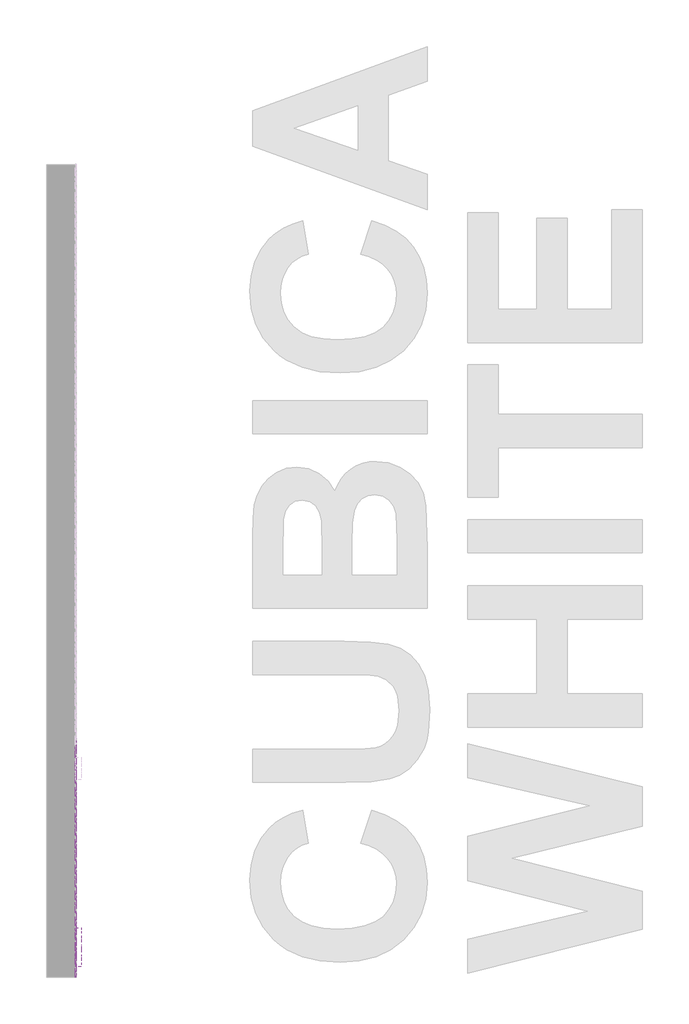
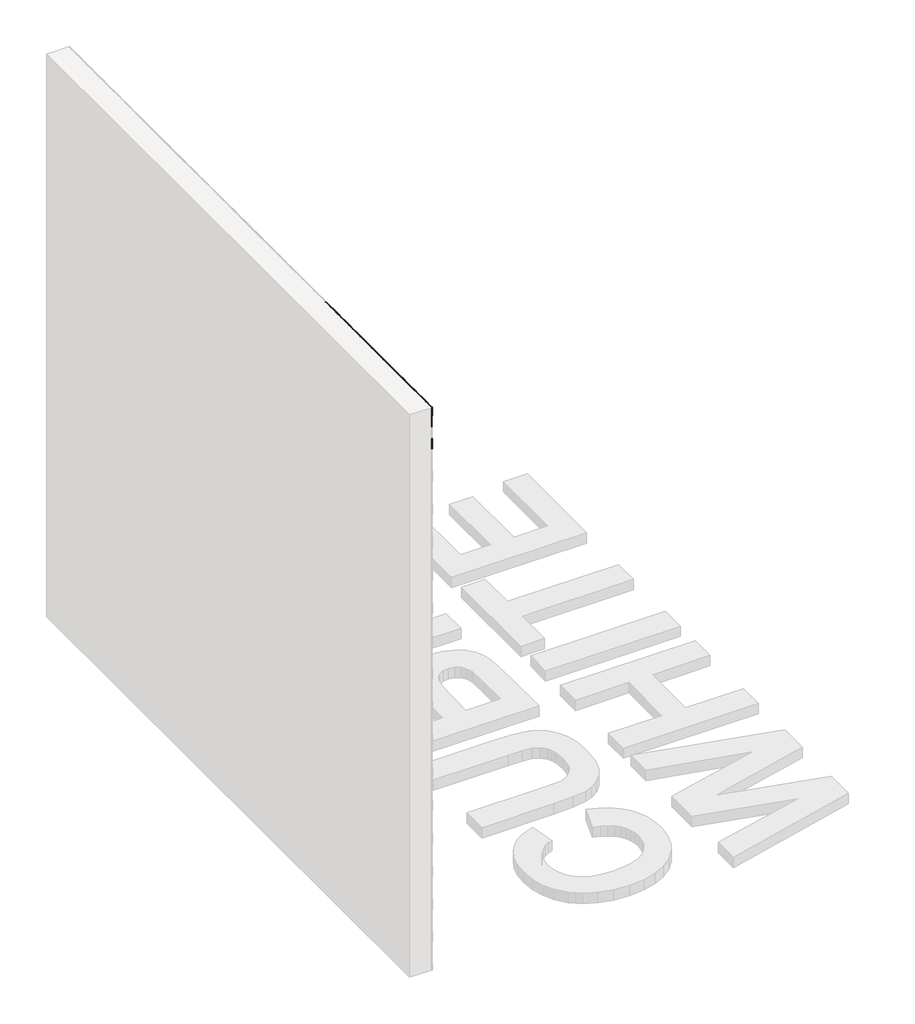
# One storey, part 104 of 121: 131 proxies.
"""IFC4 building model written with IfcOpenShell, lengths in millimetres."""

from ifc_helpers import new_model, si_unit, frame, origin, place, context, project, spatial, polyline, outline, extrude, transform, mapped, element, save
from components import generic_models_b2b2c5c1, generic_models_9bf73f6f, generic_models_5d175859, generic_models_45888c4d, generic_models_95f85f1d, generic_models_65d4feed, generic_models_3c364290, generic_models_eac52c18, generic_models_b652511d

model = new_model("IFC4")

# Units and contexts
model_context = context("Model", 3, world=origin())
ifc_project = project(units=[si_unit("LENGTHUNIT", "METRE", prefix="MILLI")], contexts=[model_context])

# Site, building, storey
site = spatial("IfcSite", under=ifc_project)
building = spatial("IfcBuilding", under=site)
storey = spatial("IfcBuildingStorey", under=building, Name="PORTOBELLO - SHOWROOM", Elevation=0.0)

# Proxies
placement = place(None, origin())
generic_models_shape = generic_models_b2b2c5c1(model_context)
element("IfcBuildingElementProxy", 1, Name="PBSHOP - CUBICA WHITE 4,8X8,3 : CUBICA WHITE - POSIÇÃO 01", ObjectType="PBSHOP - CUBICA WHITE 4,8X8,3 : CUBICA WHITE - POSIÇÃO 01", at=placement, inside=storey, context=model_context, shape_type="MappedRepresentation", body=[
    mapped(generic_models_shape, transform((150369.5341846, 20014.1011688, 39.4221668), x_axis=(0.0, 1.0, 0.0), y_axis=(0.0, 0.0, 1.0), z_axis=(1.0, 0.0, 0.0))),
])
element("IfcBuildingElementProxy", 2, Name="PBSHOP - CUBICA WHITE 4,8X8,3 : CUBICA WHITE - POSIÇÃO 01", ObjectType="PBSHOP - CUBICA WHITE 4,8X8,3 : CUBICA WHITE - POSIÇÃO 01", at=placement, inside=storey, context=model_context, shape_type="MappedRepresentation", body=[
    mapped(generic_models_shape, transform((150369.5341846, 20104.940438, 39.4221668), x_axis=(0.0, 1.0, 0.0), y_axis=(0.0, 0.0, 1.0), z_axis=(1.0, 0.0, 0.0))),
])
element("IfcBuildingElementProxy", 3, Name="PBSHOP - CUBICA WHITE 4,8X8,3 : CUBICA WHITE - POSIÇÃO 01", ObjectType="PBSHOP - CUBICA WHITE 4,8X8,3 : CUBICA WHITE - POSIÇÃO 01", at=placement, inside=storey, context=model_context, shape_type="MappedRepresentation", body=[
    mapped(generic_models_shape, transform((150369.5341846, 20195.7797073, 39.4221668), x_axis=(0.0, 1.0, 0.0), y_axis=(0.0, 0.0, 1.0), z_axis=(1.0, 0.0, 0.0))),
])
element("IfcBuildingElementProxy", 4, Name="PBSHOP - CUBICA WHITE 4,8X8,3 : CUBICA WHITE - POSIÇÃO 01", ObjectType="PBSHOP - CUBICA WHITE 4,8X8,3 : CUBICA WHITE - POSIÇÃO 01", at=placement, inside=storey, context=model_context, shape_type="MappedRepresentation", body=[
    mapped(generic_models_shape, transform((150369.5341846, 20286.6189765, 39.4221668), x_axis=(0.0, 1.0, 0.0), y_axis=(0.0, 0.0, 1.0), z_axis=(1.0, 0.0, 0.0))),
])
element("IfcBuildingElementProxy", 5, Name="PBSHOP - CUBICA WHITE 4,8X8,3 : CUBICA WHITE - POSIÇÃO 01", ObjectType="PBSHOP - CUBICA WHITE 4,8X8,3 : CUBICA WHITE - POSIÇÃO 01", at=placement, inside=storey, context=model_context, shape_type="MappedRepresentation", body=[
    mapped(generic_models_shape, transform((150369.5341846, 20377.4582457, 39.4221668), x_axis=(0.0, 1.0, 0.0), y_axis=(0.0, 0.0, 1.0), z_axis=(1.0, 0.0, 0.0))),
])
element("IfcBuildingElementProxy", 6, Name="PBSHOP - CUBICA WHITE 4,8X8,3 : CUBICA WHITE - POSIÇÃO 01", ObjectType="PBSHOP - CUBICA WHITE 4,8X8,3 : CUBICA WHITE - POSIÇÃO 01", at=placement, inside=storey, context=model_context, shape_type="MappedRepresentation", body=[
    mapped(generic_models_shape, transform((150369.5341846, 20468.297515, 39.4221668), x_axis=(0.0, 1.0, 0.0), y_axis=(0.0, 0.0, 1.0), z_axis=(1.0, 0.0, 0.0))),
])
element("IfcBuildingElementProxy", 7, Name="PBSHOP - CUBICA WHITE 4,8X8,3 : CUBICA WHITE - POSIÇÃO 01", ObjectType="PBSHOP - CUBICA WHITE 4,8X8,3 : CUBICA WHITE - POSIÇÃO 01", at=placement, inside=storey, context=model_context, shape_type="MappedRepresentation", body=[
    mapped(generic_models_shape, transform((150369.5341846, 20559.1367842, 39.4221668), x_axis=(0.0, 1.0, 0.0), y_axis=(0.0, 0.0, 1.0), z_axis=(1.0, 0.0, 0.0))),
])
element("IfcBuildingElementProxy", 8, Name="PBSHOP - CUBICA WHITE 4,8X8,3 : CUBICA WHITE - POSIÇÃO 01", ObjectType="PBSHOP - CUBICA WHITE 4,8X8,3 : CUBICA WHITE - POSIÇÃO 01", at=placement, inside=storey, context=model_context, shape_type="MappedRepresentation", body=[
    mapped(generic_models_shape, transform((150369.5341846, 20649.9760535, 39.4221668), x_axis=(0.0, 1.0, 0.0), y_axis=(0.0, 0.0, 1.0), z_axis=(1.0, 0.0, 0.0))),
])
element("IfcBuildingElementProxy", 9, Name="PBSHOP - CUBICA WHITE 4,8X8,3 : CUBICA WHITE - POSIÇÃO 01", ObjectType="PBSHOP - CUBICA WHITE 4,8X8,3 : CUBICA WHITE - POSIÇÃO 01", at=placement, inside=storey, context=model_context, shape_type="MappedRepresentation", body=[
    mapped(generic_models_shape, transform((150369.5341846, 20740.8153227, 39.4221668), x_axis=(0.0, 1.0, 0.0), y_axis=(0.0, 0.0, 1.0), z_axis=(1.0, 0.0, 0.0))),
])
element("IfcBuildingElementProxy", 10, Name="PBSHOP - CUBICA WHITE 4,8X8,3 : CUBICA WHITE - POSIÇÃO 01", ObjectType="PBSHOP - CUBICA WHITE 4,8X8,3 : CUBICA WHITE - POSIÇÃO 01", at=placement, inside=storey, context=model_context, shape_type="MappedRepresentation", body=[
    mapped(generic_models_shape, transform((150369.5341846, 20831.654592, 39.4221668), x_axis=(0.0, 1.0, 0.0), y_axis=(0.0, 0.0, 1.0), z_axis=(1.0, 0.0, 0.0))),
])
element("IfcBuildingElementProxy", 11, Name="PBSHOP - CUBICA WHITE 4,8X8,3 : CUBICA WHITE - POSIÇÃO 01", ObjectType="PBSHOP - CUBICA WHITE 4,8X8,3 : CUBICA WHITE - POSIÇÃO 01", at=placement, inside=storey, context=model_context, shape_type="MappedRepresentation", body=[
    mapped(generic_models_shape, transform((150369.5341846, 20922.4938612, 39.4221668), x_axis=(0.0, 1.0, 0.0), y_axis=(0.0, 0.0, 1.0), z_axis=(1.0, 0.0, 0.0))),
])
element("IfcBuildingElementProxy", 12, Name="PBSHOP - CUBICA WHITE 4,8X8,3 : CUBICA WHITE - POSIÇÃO 01", ObjectType="PBSHOP - CUBICA WHITE 4,8X8,3 : CUBICA WHITE - POSIÇÃO 01", at=placement, inside=storey, context=model_context, shape_type="MappedRepresentation", body=[
    mapped(generic_models_shape, transform((150369.5341846, 20059.5208034, 118.3568052), x_axis=(0.0, 1.0, 0.0), y_axis=(0.0, 0.0, 1.0), z_axis=(1.0, 0.0, 0.0))),
])
element("IfcBuildingElementProxy", 13, Name="PBSHOP - CUBICA WHITE 4,8X8,3 : CUBICA WHITE - POSIÇÃO 01", ObjectType="PBSHOP - CUBICA WHITE 4,8X8,3 : CUBICA WHITE - POSIÇÃO 01", at=placement, inside=storey, context=model_context, shape_type="MappedRepresentation", body=[
    mapped(generic_models_shape, transform((150369.5341846, 20150.3600726, 118.3568052), x_axis=(0.0, 1.0, 0.0), y_axis=(0.0, 0.0, 1.0), z_axis=(1.0, 0.0, 0.0))),
])
element("IfcBuildingElementProxy", 14, Name="PBSHOP - CUBICA WHITE 4,8X8,3 : CUBICA WHITE - POSIÇÃO 01", ObjectType="PBSHOP - CUBICA WHITE 4,8X8,3 : CUBICA WHITE - POSIÇÃO 01", at=placement, inside=storey, context=model_context, shape_type="MappedRepresentation", body=[
    mapped(generic_models_shape, transform((150369.5341846, 20241.1993419, 118.3568052), x_axis=(0.0, 1.0, 0.0), y_axis=(0.0, 0.0, 1.0), z_axis=(1.0, 0.0, 0.0))),
])
element("IfcBuildingElementProxy", 15, Name="PBSHOP - CUBICA WHITE 4,8X8,3 : CUBICA WHITE - POSIÇÃO 01", ObjectType="PBSHOP - CUBICA WHITE 4,8X8,3 : CUBICA WHITE - POSIÇÃO 01", at=placement, inside=storey, context=model_context, shape_type="MappedRepresentation", body=[
    mapped(generic_models_shape, transform((150369.5341846, 20332.0386111, 118.3568052), x_axis=(0.0, 1.0, 0.0), y_axis=(0.0, 0.0, 1.0), z_axis=(1.0, 0.0, 0.0))),
])
element("IfcBuildingElementProxy", 16, Name="PBSHOP - CUBICA WHITE 4,8X8,3 : CUBICA WHITE - POSIÇÃO 01", ObjectType="PBSHOP - CUBICA WHITE 4,8X8,3 : CUBICA WHITE - POSIÇÃO 01", at=placement, inside=storey, context=model_context, shape_type="MappedRepresentation", body=[
    mapped(generic_models_shape, transform((150369.5341846, 20422.8778804, 118.3568052), x_axis=(0.0, 1.0, 0.0), y_axis=(0.0, 0.0, 1.0), z_axis=(1.0, 0.0, 0.0))),
])
element("IfcBuildingElementProxy", 17, Name="PBSHOP - CUBICA WHITE 4,8X8,3 : CUBICA WHITE - POSIÇÃO 01", ObjectType="PBSHOP - CUBICA WHITE 4,8X8,3 : CUBICA WHITE - POSIÇÃO 01", at=placement, inside=storey, context=model_context, shape_type="MappedRepresentation", body=[
    mapped(generic_models_shape, transform((150369.5341846, 20513.7171496, 118.3568052), x_axis=(0.0, 1.0, 0.0), y_axis=(0.0, 0.0, 1.0), z_axis=(1.0, 0.0, 0.0))),
])
element("IfcBuildingElementProxy", 18, Name="PBSHOP - CUBICA WHITE 4,8X8,3 : CUBICA WHITE - POSIÇÃO 01", ObjectType="PBSHOP - CUBICA WHITE 4,8X8,3 : CUBICA WHITE - POSIÇÃO 01", at=placement, inside=storey, context=model_context, shape_type="MappedRepresentation", body=[
    mapped(generic_models_shape, transform((150369.5341846, 20604.5564189, 118.3568052), x_axis=(0.0, 1.0, 0.0), y_axis=(0.0, 0.0, 1.0), z_axis=(1.0, 0.0, 0.0))),
])
element("IfcBuildingElementProxy", 19, Name="PBSHOP - CUBICA WHITE 4,8X8,3 : CUBICA WHITE - POSIÇÃO 01", ObjectType="PBSHOP - CUBICA WHITE 4,8X8,3 : CUBICA WHITE - POSIÇÃO 01", at=placement, inside=storey, context=model_context, shape_type="MappedRepresentation", body=[
    mapped(generic_models_shape, transform((150369.5341846, 20695.3956881, 118.3568052), x_axis=(0.0, 1.0, 0.0), y_axis=(0.0, 0.0, 1.0), z_axis=(1.0, 0.0, 0.0))),
])
element("IfcBuildingElementProxy", 20, Name="PBSHOP - CUBICA WHITE 4,8X8,3 : CUBICA WHITE - POSIÇÃO 01", ObjectType="PBSHOP - CUBICA WHITE 4,8X8,3 : CUBICA WHITE - POSIÇÃO 01", at=placement, inside=storey, context=model_context, shape_type="MappedRepresentation", body=[
    mapped(generic_models_shape, transform((150369.5341846, 20786.2349573, 118.3568052), x_axis=(0.0, 1.0, 0.0), y_axis=(0.0, 0.0, 1.0), z_axis=(1.0, 0.0, 0.0))),
])
element("IfcBuildingElementProxy", 21, Name="PBSHOP - CUBICA WHITE 4,8X8,3 : CUBICA WHITE - POSIÇÃO 01", ObjectType="PBSHOP - CUBICA WHITE 4,8X8,3 : CUBICA WHITE - POSIÇÃO 01", at=placement, inside=storey, context=model_context, shape_type="MappedRepresentation", body=[
    mapped(generic_models_shape, transform((150369.5341846, 20877.0742266, 118.3568052), x_axis=(0.0, 1.0, 0.0), y_axis=(0.0, 0.0, 1.0), z_axis=(1.0, 0.0, 0.0))),
])
element("IfcBuildingElementProxy", 22, Name="PBSHOP - CUBICA WHITE 4,8X8,3 : CUBICA WHITE - POSIÇÃO 01", ObjectType="PBSHOP - CUBICA WHITE 4,8X8,3 : CUBICA WHITE - POSIÇÃO 01", at=placement, inside=storey, context=model_context, shape_type="MappedRepresentation", body=[
    mapped(generic_models_shape, transform((150369.5341846, 20967.9134958, 118.3568052), x_axis=(0.0, 1.0, 0.0), y_axis=(0.0, 0.0, 1.0), z_axis=(1.0, 0.0, 0.0))),
])
element("IfcBuildingElementProxy", 23, Name="PBSHOP - CUBICA WHITE 4,8X8,3 : CUBICA WHITE - POSIÇÃO 01", ObjectType="PBSHOP - CUBICA WHITE 4,8X8,3 : CUBICA WHITE - POSIÇÃO 01", at=placement, inside=storey, context=model_context, shape_type="MappedRepresentation", body=[
    mapped(generic_models_shape, transform((150369.5341846, 19650.7440918, 2565.3305948), x_axis=(0.0, 1.0, 0.0), y_axis=(0.0, 0.0, 1.0), z_axis=(1.0, 0.0, 0.0))),
])
element("IfcBuildingElementProxy", 24, Name="PBSHOP - CUBICA WHITE 4,8X8,3 : CUBICA WHITE - POSIÇÃO 01", ObjectType="PBSHOP - CUBICA WHITE 4,8X8,3 : CUBICA WHITE - POSIÇÃO 01", at=placement, inside=storey, context=model_context, shape_type="MappedRepresentation", body=[
    mapped(generic_models_shape, transform((150369.5341846, 19741.583361, 2565.3305948), x_axis=(0.0, 1.0, 0.0), y_axis=(0.0, 0.0, 1.0), z_axis=(1.0, 0.0, 0.0))),
])
element("IfcBuildingElementProxy", 25, Name="PBSHOP - CUBICA WHITE 4,8X8,3 : CUBICA WHITE - POSIÇÃO 01", ObjectType="PBSHOP - CUBICA WHITE 4,8X8,3 : CUBICA WHITE - POSIÇÃO 01", at=placement, inside=storey, context=model_context, shape_type="MappedRepresentation", body=[
    mapped(generic_models_shape, transform((150369.5341846, 19832.4226303, 2565.3305948), x_axis=(0.0, 1.0, 0.0), y_axis=(0.0, 0.0, 1.0), z_axis=(1.0, 0.0, 0.0))),
])
element("IfcBuildingElementProxy", 26, Name="PBSHOP - CUBICA WHITE 4,8X8,3 : CUBICA WHITE - POSIÇÃO 01", ObjectType="PBSHOP - CUBICA WHITE 4,8X8,3 : CUBICA WHITE - POSIÇÃO 01", at=placement, inside=storey, context=model_context, shape_type="MappedRepresentation", body=[
    mapped(generic_models_shape, transform((150369.5341846, 19923.2618995, 2565.3305948), x_axis=(0.0, 1.0, 0.0), y_axis=(0.0, 0.0, 1.0), z_axis=(1.0, 0.0, 0.0))),
])
element("IfcBuildingElementProxy", 27, Name="PBSHOP - CUBICA WHITE 4,8X8,3 : CUBICA WHITE - POSIÇÃO 01", ObjectType="PBSHOP - CUBICA WHITE 4,8X8,3 : CUBICA WHITE - POSIÇÃO 01", at=placement, inside=storey, context=model_context, shape_type="MappedRepresentation", body=[
    mapped(generic_models_shape, transform((150369.5341846, 19241.9673802, 2644.2652332), x_axis=(0.0, 1.0, 0.0), y_axis=(0.0, 0.0, 1.0), z_axis=(1.0, 0.0, 0.0))),
])
element("IfcBuildingElementProxy", 28, Name="PBSHOP - CUBICA WHITE 4,8X8,3 : CUBICA WHITE - POSIÇÃO 01", ObjectType="PBSHOP - CUBICA WHITE 4,8X8,3 : CUBICA WHITE - POSIÇÃO 01", at=placement, inside=storey, context=model_context, shape_type="MappedRepresentation", body=[
    mapped(generic_models_shape, transform((150369.5341846, 19332.8066494, 2644.2652332), x_axis=(0.0, 1.0, 0.0), y_axis=(0.0, 0.0, 1.0), z_axis=(1.0, 0.0, 0.0))),
])
element("IfcBuildingElementProxy", 29, Name="PBSHOP - CUBICA WHITE 4,8X8,3 : CUBICA WHITE - POSIÇÃO 01", ObjectType="PBSHOP - CUBICA WHITE 4,8X8,3 : CUBICA WHITE - POSIÇÃO 01", at=placement, inside=storey, context=model_context, shape_type="MappedRepresentation", body=[
    mapped(generic_models_shape, transform((150369.5341846, 19423.6459187, 2644.2652332), x_axis=(0.0, 1.0, 0.0), y_axis=(0.0, 0.0, 1.0), z_axis=(1.0, 0.0, 0.0))),
])
element("IfcBuildingElementProxy", 30, Name="PBSHOP - CUBICA WHITE 4,8X8,3 : CUBICA WHITE - POSIÇÃO 01", ObjectType="PBSHOP - CUBICA WHITE 4,8X8,3 : CUBICA WHITE - POSIÇÃO 01", at=placement, inside=storey, context=model_context, shape_type="MappedRepresentation", body=[
    mapped(generic_models_shape, transform((150369.5341846, 19514.4851879, 2644.2652332), x_axis=(0.0, 1.0, 0.0), y_axis=(0.0, 0.0, 1.0), z_axis=(1.0, 0.0, 0.0))),
])
element("IfcBuildingElementProxy", 31, Name="PBSHOP - CUBICA WHITE 4,8X8,3 : CUBICA WHITE - POSIÇÃO 01", ObjectType="PBSHOP - CUBICA WHITE 4,8X8,3 : CUBICA WHITE - POSIÇÃO 01", at=placement, inside=storey, context=model_context, shape_type="MappedRepresentation", body=[
    mapped(generic_models_shape, transform((150369.5341846, 19605.3244572, 2644.2652332), x_axis=(0.0, 1.0, 0.0), y_axis=(0.0, 0.0, 1.0), z_axis=(1.0, 0.0, 0.0))),
])
element("IfcBuildingElementProxy", 32, Name="PBSHOP - CUBICA WHITE 4,8X8,3 : CUBICA WHITE - POSIÇÃO 01", ObjectType="PBSHOP - CUBICA WHITE 4,8X8,3 : CUBICA WHITE - POSIÇÃO 01", at=placement, inside=storey, context=model_context, shape_type="MappedRepresentation", body=[
    mapped(generic_models_shape, transform((150369.5341846, 19696.1637264, 2644.2652332), x_axis=(0.0, 1.0, 0.0), y_axis=(0.0, 0.0, 1.0), z_axis=(1.0, 0.0, 0.0))),
])
element("IfcBuildingElementProxy", 33, Name="PBSHOP - CUBICA WHITE 4,8X8,3 : CUBICA WHITE - POSIÇÃO 01", ObjectType="PBSHOP - CUBICA WHITE 4,8X8,3 : CUBICA WHITE - POSIÇÃO 01", at=placement, inside=storey, context=model_context, shape_type="MappedRepresentation", body=[
    mapped(generic_models_shape, transform((150369.5341846, 19787.0029957, 2644.2652332), x_axis=(0.0, 1.0, 0.0), y_axis=(0.0, 0.0, 1.0), z_axis=(1.0, 0.0, 0.0))),
])
element("IfcBuildingElementProxy", 34, Name="PBSHOP - CUBICA WHITE 4,8X8,3 : CUBICA WHITE - POSIÇÃO 01", ObjectType="PBSHOP - CUBICA WHITE 4,8X8,3 : CUBICA WHITE - POSIÇÃO 01", at=placement, inside=storey, context=model_context, shape_type="MappedRepresentation", body=[
    mapped(generic_models_shape, transform((150369.5341846, 19877.8422649, 2644.2652332), x_axis=(0.0, 1.0, 0.0), y_axis=(0.0, 0.0, 1.0), z_axis=(1.0, 0.0, 0.0))),
])
element("IfcBuildingElementProxy", 35, Name="PBSHOP - CUBICA WHITE 4,8X8,3 : CUBICA WHITE - POSIÇÃO 01", ObjectType="PBSHOP - CUBICA WHITE 4,8X8,3 : CUBICA WHITE - POSIÇÃO 01", at=placement, inside=storey, context=model_context, shape_type="MappedRepresentation", body=[
    mapped(generic_models_shape, transform((150369.5341846, 19968.6815341, 2644.2652332), x_axis=(0.0, 1.0, 0.0), y_axis=(0.0, 0.0, 1.0), z_axis=(1.0, 0.0, 0.0))),
])
generic_models_2_shape = generic_models_9bf73f6f(model_context)
element("IfcBuildingElementProxy", 36, Name="PBSHOP - CUBICA WHITE 4,8X8,3 : CUBICA WHITE - POSIÇÃO 03", ObjectType="PBSHOP - CUBICA WHITE 4,8X8,3 : CUBICA WHITE - POSIÇÃO 03", at=placement, inside=storey, context=model_context, shape_type="MappedRepresentation", body=[
    mapped(generic_models_2_shape, transform((150369.5341846, 20036.8131452, 78.8482756), x_axis=(0.0, 1.0, 0.0), y_axis=(0.0, 0.0, 1.0), z_axis=(1.0, 0.0, 0.0))),
])
element("IfcBuildingElementProxy", 37, Name="PBSHOP - CUBICA WHITE 4,8X8,3 : CUBICA WHITE - POSIÇÃO 03", ObjectType="PBSHOP - CUBICA WHITE 4,8X8,3 : CUBICA WHITE - POSIÇÃO 03", at=placement, inside=storey, context=model_context, shape_type="MappedRepresentation", body=[
    mapped(generic_models_2_shape, transform((150369.5341846, 19264.6793567, 2525.8220652), x_axis=(0.0, 1.0, 0.0), y_axis=(0.0, 0.0, 1.0), z_axis=(1.0, 0.0, 0.0))),
])
element("IfcBuildingElementProxy", 38, Name="PBSHOP - CUBICA WHITE 4,8X8,3 : CUBICA WHITE - POSIÇÃO 03", ObjectType="PBSHOP - CUBICA WHITE 4,8X8,3 : CUBICA WHITE - POSIÇÃO 03", at=placement, inside=storey, context=model_context, shape_type="MappedRepresentation", body=[
    mapped(generic_models_2_shape, transform((150369.5341846, 19355.5186259, 2525.8220652), x_axis=(0.0, 1.0, 0.0), y_axis=(0.0, 0.0, 1.0), z_axis=(1.0, 0.0, 0.0))),
])
element("IfcBuildingElementProxy", 39, Name="PBSHOP - CUBICA WHITE 4,8X8,3 : CUBICA WHITE - POSIÇÃO 03", ObjectType="PBSHOP - CUBICA WHITE 4,8X8,3 : CUBICA WHITE - POSIÇÃO 03", at=placement, inside=storey, context=model_context, shape_type="MappedRepresentation", body=[
    mapped(generic_models_2_shape, transform((150369.5341846, 19446.3578952, 2525.8220652), x_axis=(0.0, 1.0, 0.0), y_axis=(0.0, 0.0, 1.0), z_axis=(1.0, 0.0, 0.0))),
])
element("IfcBuildingElementProxy", 40, Name="PBSHOP - CUBICA WHITE 4,8X8,3 : CUBICA WHITE - POSIÇÃO 03", ObjectType="PBSHOP - CUBICA WHITE 4,8X8,3 : CUBICA WHITE - POSIÇÃO 03", at=placement, inside=storey, context=model_context, shape_type="MappedRepresentation", body=[
    mapped(generic_models_2_shape, transform((150369.5341846, 19537.1971644, 2525.8220652), x_axis=(0.0, 1.0, 0.0), y_axis=(0.0, 0.0, 1.0), z_axis=(1.0, 0.0, 0.0))),
])
element("IfcBuildingElementProxy", 41, Name="PBSHOP - CUBICA WHITE 4,8X8,3 : CUBICA WHITE - POSIÇÃO 03", ObjectType="PBSHOP - CUBICA WHITE 4,8X8,3 : CUBICA WHITE - POSIÇÃO 03", at=placement, inside=storey, context=model_context, shape_type="MappedRepresentation", body=[
    mapped(generic_models_2_shape, transform((150369.5341846, 19628.0364336, 2525.8220652), x_axis=(0.0, 1.0, 0.0), y_axis=(0.0, 0.0, 1.0), z_axis=(1.0, 0.0, 0.0))),
])
element("IfcBuildingElementProxy", 42, Name="PBSHOP - CUBICA WHITE 4,8X8,3 : CUBICA WHITE - POSIÇÃO 03", ObjectType="PBSHOP - CUBICA WHITE 4,8X8,3 : CUBICA WHITE - POSIÇÃO 03", at=placement, inside=storey, context=model_context, shape_type="MappedRepresentation", body=[
    mapped(generic_models_2_shape, transform((150369.5341846, 19718.8757029, 2525.8220652), x_axis=(0.0, 1.0, 0.0), y_axis=(0.0, 0.0, 1.0), z_axis=(1.0, 0.0, 0.0))),
])
element("IfcBuildingElementProxy", 43, Name="PBSHOP - CUBICA WHITE 4,8X8,3 : CUBICA WHITE - POSIÇÃO 03", ObjectType="PBSHOP - CUBICA WHITE 4,8X8,3 : CUBICA WHITE - POSIÇÃO 03", at=placement, inside=storey, context=model_context, shape_type="MappedRepresentation", body=[
    mapped(generic_models_2_shape, transform((150369.5341846, 19809.7149721, 2525.8220652), x_axis=(0.0, 1.0, 0.0), y_axis=(0.0, 0.0, 1.0), z_axis=(1.0, 0.0, 0.0))),
])
element("IfcBuildingElementProxy", 44, Name="PBSHOP - CUBICA WHITE 4,8X8,3 : CUBICA WHITE - POSIÇÃO 03", ObjectType="PBSHOP - CUBICA WHITE 4,8X8,3 : CUBICA WHITE - POSIÇÃO 03", at=placement, inside=storey, context=model_context, shape_type="MappedRepresentation", body=[
    mapped(generic_models_2_shape, transform((150369.5341846, 19900.5542414, 2525.8220652), x_axis=(0.0, 1.0, 0.0), y_axis=(0.0, 0.0, 1.0), z_axis=(1.0, 0.0, 0.0))),
])
element("IfcBuildingElementProxy", 45, Name="PBSHOP - CUBICA WHITE 4,8X8,3 : CUBICA WHITE - POSIÇÃO 03", ObjectType="PBSHOP - CUBICA WHITE 4,8X8,3 : CUBICA WHITE - POSIÇÃO 03", at=placement, inside=storey, context=model_context, shape_type="MappedRepresentation", body=[
    mapped(generic_models_2_shape, transform((150369.5341846, 19991.3935106, 2525.8220652), x_axis=(0.0, 1.0, 0.0), y_axis=(0.0, 0.0, 1.0), z_axis=(1.0, 0.0, 0.0))),
])
element("IfcBuildingElementProxy", 46, Name="PBSHOP - CUBICA WHITE 4,8X8,3 : CUBICA WHITE - POSIÇÃO 03", ObjectType="PBSHOP - CUBICA WHITE 4,8X8,3 : CUBICA WHITE - POSIÇÃO 03", at=placement, inside=storey, context=model_context, shape_type="MappedRepresentation", body=[
    mapped(generic_models_2_shape, transform((150369.5341846, 19219.259722, 2604.7567035), x_axis=(0.0, 1.0, 0.0), y_axis=(0.0, 0.0, 1.0), z_axis=(1.0, 0.0, 0.0))),
])
element("IfcBuildingElementProxy", 47, Name="PBSHOP - CUBICA WHITE 4,8X8,3 : CUBICA WHITE - POSIÇÃO 03", ObjectType="PBSHOP - CUBICA WHITE 4,8X8,3 : CUBICA WHITE - POSIÇÃO 03", at=placement, inside=storey, context=model_context, shape_type="MappedRepresentation", body=[
    mapped(generic_models_2_shape, transform((150369.5341846, 19310.0989913, 2604.7567035), x_axis=(0.0, 1.0, 0.0), y_axis=(0.0, 0.0, 1.0), z_axis=(1.0, 0.0, 0.0))),
])
element("IfcBuildingElementProxy", 48, Name="PBSHOP - CUBICA WHITE 4,8X8,3 : CUBICA WHITE - POSIÇÃO 03", ObjectType="PBSHOP - CUBICA WHITE 4,8X8,3 : CUBICA WHITE - POSIÇÃO 03", at=placement, inside=storey, context=model_context, shape_type="MappedRepresentation", body=[
    mapped(generic_models_2_shape, transform((150369.5341846, 19400.9382605, 2604.7567035), x_axis=(0.0, 1.0, 0.0), y_axis=(0.0, 0.0, 1.0), z_axis=(1.0, 0.0, 0.0))),
])
element("IfcBuildingElementProxy", 49, Name="PBSHOP - CUBICA WHITE 4,8X8,3 : CUBICA WHITE - POSIÇÃO 03", ObjectType="PBSHOP - CUBICA WHITE 4,8X8,3 : CUBICA WHITE - POSIÇÃO 03", at=placement, inside=storey, context=model_context, shape_type="MappedRepresentation", body=[
    mapped(generic_models_2_shape, transform((150369.5341846, 19491.7775298, 2604.7567035), x_axis=(0.0, 1.0, 0.0), y_axis=(0.0, 0.0, 1.0), z_axis=(1.0, 0.0, 0.0))),
])
element("IfcBuildingElementProxy", 50, Name="PBSHOP - CUBICA WHITE 4,8X8,3 : CUBICA WHITE - POSIÇÃO 03", ObjectType="PBSHOP - CUBICA WHITE 4,8X8,3 : CUBICA WHITE - POSIÇÃO 03", at=placement, inside=storey, context=model_context, shape_type="MappedRepresentation", body=[
    mapped(generic_models_2_shape, transform((150369.5341846, 19582.616799, 2604.7567035), x_axis=(0.0, 1.0, 0.0), y_axis=(0.0, 0.0, 1.0), z_axis=(1.0, 0.0, 0.0))),
])
element("IfcBuildingElementProxy", 51, Name="PBSHOP - CUBICA WHITE 4,8X8,3 : CUBICA WHITE - POSIÇÃO 03", ObjectType="PBSHOP - CUBICA WHITE 4,8X8,3 : CUBICA WHITE - POSIÇÃO 03", at=placement, inside=storey, context=model_context, shape_type="MappedRepresentation", body=[
    mapped(generic_models_2_shape, transform((150369.5341846, 19673.4560683, 2604.7567035), x_axis=(0.0, 1.0, 0.0), y_axis=(0.0, 0.0, 1.0), z_axis=(1.0, 0.0, 0.0))),
])
element("IfcBuildingElementProxy", 52, Name="PBSHOP - CUBICA WHITE 4,8X8,3 : CUBICA WHITE - POSIÇÃO 03", ObjectType="PBSHOP - CUBICA WHITE 4,8X8,3 : CUBICA WHITE - POSIÇÃO 03", at=placement, inside=storey, context=model_context, shape_type="MappedRepresentation", body=[
    mapped(generic_models_2_shape, transform((150369.5341846, 19764.2953375, 2604.7567035), x_axis=(0.0, 1.0, 0.0), y_axis=(0.0, 0.0, 1.0), z_axis=(1.0, 0.0, 0.0))),
])
element("IfcBuildingElementProxy", 53, Name="PBSHOP - CUBICA WHITE 4,8X8,3 : CUBICA WHITE - POSIÇÃO 03", ObjectType="PBSHOP - CUBICA WHITE 4,8X8,3 : CUBICA WHITE - POSIÇÃO 03", at=placement, inside=storey, context=model_context, shape_type="MappedRepresentation", body=[
    mapped(generic_models_2_shape, transform((150369.5341846, 19855.1346068, 2604.7567035), x_axis=(0.0, 1.0, 0.0), y_axis=(0.0, 0.0, 1.0), z_axis=(1.0, 0.0, 0.0))),
])
element("IfcBuildingElementProxy", 54, Name="PBSHOP - CUBICA WHITE 4,8X8,3 : CUBICA WHITE - POSIÇÃO 03", ObjectType="PBSHOP - CUBICA WHITE 4,8X8,3 : CUBICA WHITE - POSIÇÃO 03", at=placement, inside=storey, context=model_context, shape_type="MappedRepresentation", body=[
    mapped(generic_models_2_shape, transform((150369.5341846, 19945.973876, 2604.7567035), x_axis=(0.0, 1.0, 0.0), y_axis=(0.0, 0.0, 1.0), z_axis=(1.0, 0.0, 0.0))),
])
generic_models_3_shape = generic_models_5d175859(model_context)
element("IfcBuildingElementProxy", 55, Name="PBSHOP - CUBICA WHITE 4,8X8,3 : CUBICA WHITE - POSIÇÃO 01", ObjectType="PBSHOP - CUBICA WHITE 4,8X8,3 : CUBICA WHITE - POSIÇÃO 01", at=placement, inside=storey, context=model_context, shape_type="MappedRepresentation", body=[
    mapped(generic_models_3_shape, transform((150369.5341846, 20059.5251217, 39.4221668), x_axis=(0.0, -1.0, 0.0), y_axis=(0.0, 0.0, -1.0), z_axis=(1.0, 0.0, 0.0))),
])
element("IfcBuildingElementProxy", 56, Name="PBSHOP - CUBICA WHITE 4,8X8,3 : CUBICA WHITE - POSIÇÃO 01", ObjectType="PBSHOP - CUBICA WHITE 4,8X8,3 : CUBICA WHITE - POSIÇÃO 01", at=placement, inside=storey, context=model_context, shape_type="MappedRepresentation", body=[
    mapped(generic_models_3_shape, transform((150369.5341846, 20150.364391, 39.4221668), x_axis=(0.0, -1.0, 0.0), y_axis=(0.0, 0.0, -1.0), z_axis=(1.0, 0.0, 0.0))),
])
element("IfcBuildingElementProxy", 57, Name="PBSHOP - CUBICA WHITE 4,8X8,3 : CUBICA WHITE - POSIÇÃO 01", ObjectType="PBSHOP - CUBICA WHITE 4,8X8,3 : CUBICA WHITE - POSIÇÃO 01", at=placement, inside=storey, context=model_context, shape_type="MappedRepresentation", body=[
    mapped(generic_models_3_shape, transform((150369.5341846, 20241.2036602, 39.4221668), x_axis=(0.0, -1.0, 0.0), y_axis=(0.0, 0.0, -1.0), z_axis=(1.0, 0.0, 0.0))),
])
element("IfcBuildingElementProxy", 58, Name="PBSHOP - CUBICA WHITE 4,8X8,3 : CUBICA WHITE - POSIÇÃO 01", ObjectType="PBSHOP - CUBICA WHITE 4,8X8,3 : CUBICA WHITE - POSIÇÃO 01", at=placement, inside=storey, context=model_context, shape_type="MappedRepresentation", body=[
    mapped(generic_models_3_shape, transform((150369.5341846, 20332.0429295, 39.4221668), x_axis=(0.0, -1.0, 0.0), y_axis=(0.0, 0.0, -1.0), z_axis=(1.0, 0.0, 0.0))),
])
element("IfcBuildingElementProxy", 59, Name="PBSHOP - CUBICA WHITE 4,8X8,3 : CUBICA WHITE - POSIÇÃO 01", ObjectType="PBSHOP - CUBICA WHITE 4,8X8,3 : CUBICA WHITE - POSIÇÃO 01", at=placement, inside=storey, context=model_context, shape_type="MappedRepresentation", body=[
    mapped(generic_models_3_shape, transform((150369.5341846, 20422.8821987, 39.4221668), x_axis=(0.0, -1.0, 0.0), y_axis=(0.0, 0.0, -1.0), z_axis=(1.0, 0.0, 0.0))),
])
element("IfcBuildingElementProxy", 60, Name="PBSHOP - CUBICA WHITE 4,8X8,3 : CUBICA WHITE - POSIÇÃO 01", ObjectType="PBSHOP - CUBICA WHITE 4,8X8,3 : CUBICA WHITE - POSIÇÃO 01", at=placement, inside=storey, context=model_context, shape_type="MappedRepresentation", body=[
    mapped(generic_models_3_shape, transform((150369.5341846, 20513.7214679, 39.4221668), x_axis=(0.0, -1.0, 0.0), y_axis=(0.0, 0.0, -1.0), z_axis=(1.0, 0.0, 0.0))),
])
element("IfcBuildingElementProxy", 61, Name="PBSHOP - CUBICA WHITE 4,8X8,3 : CUBICA WHITE - POSIÇÃO 01", ObjectType="PBSHOP - CUBICA WHITE 4,8X8,3 : CUBICA WHITE - POSIÇÃO 01", at=placement, inside=storey, context=model_context, shape_type="MappedRepresentation", body=[
    mapped(generic_models_3_shape, transform((150369.5341846, 20604.5607372, 39.4221668), x_axis=(0.0, -1.0, 0.0), y_axis=(0.0, 0.0, -1.0), z_axis=(1.0, 0.0, 0.0))),
])
element("IfcBuildingElementProxy", 62, Name="PBSHOP - CUBICA WHITE 4,8X8,3 : CUBICA WHITE - POSIÇÃO 01", ObjectType="PBSHOP - CUBICA WHITE 4,8X8,3 : CUBICA WHITE - POSIÇÃO 01", at=placement, inside=storey, context=model_context, shape_type="MappedRepresentation", body=[
    mapped(generic_models_3_shape, transform((150369.5341846, 20695.4000064, 39.4221668), x_axis=(0.0, -1.0, 0.0), y_axis=(0.0, 0.0, -1.0), z_axis=(1.0, 0.0, 0.0))),
])
element("IfcBuildingElementProxy", 63, Name="PBSHOP - CUBICA WHITE 4,8X8,3 : CUBICA WHITE - POSIÇÃO 01", ObjectType="PBSHOP - CUBICA WHITE 4,8X8,3 : CUBICA WHITE - POSIÇÃO 01", at=placement, inside=storey, context=model_context, shape_type="MappedRepresentation", body=[
    mapped(generic_models_3_shape, transform((150369.5341846, 20786.2392757, 39.4221668), x_axis=(0.0, -1.0, 0.0), y_axis=(0.0, 0.0, -1.0), z_axis=(1.0, 0.0, 0.0))),
])
element("IfcBuildingElementProxy", 64, Name="PBSHOP - CUBICA WHITE 4,8X8,3 : CUBICA WHITE - POSIÇÃO 01", ObjectType="PBSHOP - CUBICA WHITE 4,8X8,3 : CUBICA WHITE - POSIÇÃO 01", at=placement, inside=storey, context=model_context, shape_type="MappedRepresentation", body=[
    mapped(generic_models_3_shape, transform((150369.5341846, 20877.0785449, 39.4221668), x_axis=(0.0, -1.0, 0.0), y_axis=(0.0, 0.0, -1.0), z_axis=(1.0, 0.0, 0.0))),
])
element("IfcBuildingElementProxy", 65, Name="PBSHOP - CUBICA WHITE 4,8X8,3 : CUBICA WHITE - POSIÇÃO 01", ObjectType="PBSHOP - CUBICA WHITE 4,8X8,3 : CUBICA WHITE - POSIÇÃO 01", at=placement, inside=storey, context=model_context, shape_type="MappedRepresentation", body=[
    mapped(generic_models_3_shape, transform((150369.5341846, 20967.9178142, 39.4221668), x_axis=(0.0, -1.0, 0.0), y_axis=(0.0, 0.0, -1.0), z_axis=(1.0, 0.0, 0.0))),
])
element("IfcBuildingElementProxy", 66, Name="PBSHOP - CUBICA WHITE 4,8X8,3 : CUBICA WHITE - POSIÇÃO 01", ObjectType="PBSHOP - CUBICA WHITE 4,8X8,3 : CUBICA WHITE - POSIÇÃO 01", at=placement, inside=storey, context=model_context, shape_type="MappedRepresentation", body=[
    mapped(generic_models_3_shape, transform((150369.5341846, 20014.1054871, 118.3568052), x_axis=(0.0, -1.0, 0.0), y_axis=(0.0, 0.0, -1.0), z_axis=(1.0, 0.0, 0.0))),
])
element("IfcBuildingElementProxy", 67, Name="PBSHOP - CUBICA WHITE 4,8X8,3 : CUBICA WHITE - POSIÇÃO 01", ObjectType="PBSHOP - CUBICA WHITE 4,8X8,3 : CUBICA WHITE - POSIÇÃO 01", at=placement, inside=storey, context=model_context, shape_type="MappedRepresentation", body=[
    mapped(generic_models_3_shape, transform((150369.5341846, 20104.9447563, 118.3568052), x_axis=(0.0, -1.0, 0.0), y_axis=(0.0, 0.0, -1.0), z_axis=(1.0, 0.0, 0.0))),
])
element("IfcBuildingElementProxy", 68, Name="PBSHOP - CUBICA WHITE 4,8X8,3 : CUBICA WHITE - POSIÇÃO 01", ObjectType="PBSHOP - CUBICA WHITE 4,8X8,3 : CUBICA WHITE - POSIÇÃO 01", at=placement, inside=storey, context=model_context, shape_type="MappedRepresentation", body=[
    mapped(generic_models_3_shape, transform((150369.5341846, 20195.7840256, 118.3568052), x_axis=(0.0, -1.0, 0.0), y_axis=(0.0, 0.0, -1.0), z_axis=(1.0, 0.0, 0.0))),
])
element("IfcBuildingElementProxy", 69, Name="PBSHOP - CUBICA WHITE 4,8X8,3 : CUBICA WHITE - POSIÇÃO 01", ObjectType="PBSHOP - CUBICA WHITE 4,8X8,3 : CUBICA WHITE - POSIÇÃO 01", at=placement, inside=storey, context=model_context, shape_type="MappedRepresentation", body=[
    mapped(generic_models_3_shape, transform((150369.5341846, 20286.6232948, 118.3568052), x_axis=(0.0, -1.0, 0.0), y_axis=(0.0, 0.0, -1.0), z_axis=(1.0, 0.0, 0.0))),
])
element("IfcBuildingElementProxy", 70, Name="PBSHOP - CUBICA WHITE 4,8X8,3 : CUBICA WHITE - POSIÇÃO 01", ObjectType="PBSHOP - CUBICA WHITE 4,8X8,3 : CUBICA WHITE - POSIÇÃO 01", at=placement, inside=storey, context=model_context, shape_type="MappedRepresentation", body=[
    mapped(generic_models_3_shape, transform((150369.5341846, 20377.4625641, 118.3568052), x_axis=(0.0, -1.0, 0.0), y_axis=(0.0, 0.0, -1.0), z_axis=(1.0, 0.0, 0.0))),
])
element("IfcBuildingElementProxy", 71, Name="PBSHOP - CUBICA WHITE 4,8X8,3 : CUBICA WHITE - POSIÇÃO 01", ObjectType="PBSHOP - CUBICA WHITE 4,8X8,3 : CUBICA WHITE - POSIÇÃO 01", at=placement, inside=storey, context=model_context, shape_type="MappedRepresentation", body=[
    mapped(generic_models_3_shape, transform((150369.5341846, 20468.3018333, 118.3568052), x_axis=(0.0, -1.0, 0.0), y_axis=(0.0, 0.0, -1.0), z_axis=(1.0, 0.0, 0.0))),
])
element("IfcBuildingElementProxy", 72, Name="PBSHOP - CUBICA WHITE 4,8X8,3 : CUBICA WHITE - POSIÇÃO 01", ObjectType="PBSHOP - CUBICA WHITE 4,8X8,3 : CUBICA WHITE - POSIÇÃO 01", at=placement, inside=storey, context=model_context, shape_type="MappedRepresentation", body=[
    mapped(generic_models_3_shape, transform((150369.5341846, 20559.1411026, 118.3568052), x_axis=(0.0, -1.0, 0.0), y_axis=(0.0, 0.0, -1.0), z_axis=(1.0, 0.0, 0.0))),
])
element("IfcBuildingElementProxy", 73, Name="PBSHOP - CUBICA WHITE 4,8X8,3 : CUBICA WHITE - POSIÇÃO 01", ObjectType="PBSHOP - CUBICA WHITE 4,8X8,3 : CUBICA WHITE - POSIÇÃO 01", at=placement, inside=storey, context=model_context, shape_type="MappedRepresentation", body=[
    mapped(generic_models_3_shape, transform((150369.5341846, 20649.9803718, 118.3568052), x_axis=(0.0, -1.0, 0.0), y_axis=(0.0, 0.0, -1.0), z_axis=(1.0, 0.0, 0.0))),
])
element("IfcBuildingElementProxy", 74, Name="PBSHOP - CUBICA WHITE 4,8X8,3 : CUBICA WHITE - POSIÇÃO 01", ObjectType="PBSHOP - CUBICA WHITE 4,8X8,3 : CUBICA WHITE - POSIÇÃO 01", at=placement, inside=storey, context=model_context, shape_type="MappedRepresentation", body=[
    mapped(generic_models_3_shape, transform((150369.5341846, 20740.819641, 118.3568052), x_axis=(0.0, -1.0, 0.0), y_axis=(0.0, 0.0, -1.0), z_axis=(1.0, 0.0, 0.0))),
])
element("IfcBuildingElementProxy", 75, Name="PBSHOP - CUBICA WHITE 4,8X8,3 : CUBICA WHITE - POSIÇÃO 01", ObjectType="PBSHOP - CUBICA WHITE 4,8X8,3 : CUBICA WHITE - POSIÇÃO 01", at=placement, inside=storey, context=model_context, shape_type="MappedRepresentation", body=[
    mapped(generic_models_3_shape, transform((150369.5341846, 20831.6589103, 118.3568052), x_axis=(0.0, -1.0, 0.0), y_axis=(0.0, 0.0, -1.0), z_axis=(1.0, 0.0, 0.0))),
])
element("IfcBuildingElementProxy", 76, Name="PBSHOP - CUBICA WHITE 4,8X8,3 : CUBICA WHITE - POSIÇÃO 01", ObjectType="PBSHOP - CUBICA WHITE 4,8X8,3 : CUBICA WHITE - POSIÇÃO 01", at=placement, inside=storey, context=model_context, shape_type="MappedRepresentation", body=[
    mapped(generic_models_3_shape, transform((150369.5341846, 20922.4981795, 118.3568052), x_axis=(0.0, -1.0, 0.0), y_axis=(0.0, 0.0, -1.0), z_axis=(1.0, 0.0, 0.0))),
])
element("IfcBuildingElementProxy", 77, Name="PBSHOP - CUBICA WHITE 4,8X8,3 : CUBICA WHITE - POSIÇÃO 01", ObjectType="PBSHOP - CUBICA WHITE 4,8X8,3 : CUBICA WHITE - POSIÇÃO 01", at=placement, inside=storey, context=model_context, shape_type="MappedRepresentation", body=[
    mapped(generic_models_3_shape, transform((150369.5341846, 19605.3287755, 2565.3305948), x_axis=(0.0, -1.0, 0.0), y_axis=(0.0, 0.0, -1.0), z_axis=(1.0, 0.0, 0.0))),
])
element("IfcBuildingElementProxy", 78, Name="PBSHOP - CUBICA WHITE 4,8X8,3 : CUBICA WHITE - POSIÇÃO 01", ObjectType="PBSHOP - CUBICA WHITE 4,8X8,3 : CUBICA WHITE - POSIÇÃO 01", at=placement, inside=storey, context=model_context, shape_type="MappedRepresentation", body=[
    mapped(generic_models_3_shape, transform((150369.5341846, 19696.1680447, 2565.3305948), x_axis=(0.0, -1.0, 0.0), y_axis=(0.0, 0.0, -1.0), z_axis=(1.0, 0.0, 0.0))),
])
element("IfcBuildingElementProxy", 79, Name="PBSHOP - CUBICA WHITE 4,8X8,3 : CUBICA WHITE - POSIÇÃO 01", ObjectType="PBSHOP - CUBICA WHITE 4,8X8,3 : CUBICA WHITE - POSIÇÃO 01", at=placement, inside=storey, context=model_context, shape_type="MappedRepresentation", body=[
    mapped(generic_models_3_shape, transform((150369.5341846, 19787.007314, 2565.3305948), x_axis=(0.0, -1.0, 0.0), y_axis=(0.0, 0.0, -1.0), z_axis=(1.0, 0.0, 0.0))),
])
element("IfcBuildingElementProxy", 80, Name="PBSHOP - CUBICA WHITE 4,8X8,3 : CUBICA WHITE - POSIÇÃO 01", ObjectType="PBSHOP - CUBICA WHITE 4,8X8,3 : CUBICA WHITE - POSIÇÃO 01", at=placement, inside=storey, context=model_context, shape_type="MappedRepresentation", body=[
    mapped(generic_models_3_shape, transform((150369.5341846, 19877.8465832, 2565.3305948), x_axis=(0.0, -1.0, 0.0), y_axis=(0.0, 0.0, -1.0), z_axis=(1.0, 0.0, 0.0))),
])
element("IfcBuildingElementProxy", 81, Name="PBSHOP - CUBICA WHITE 4,8X8,3 : CUBICA WHITE - POSIÇÃO 01", ObjectType="PBSHOP - CUBICA WHITE 4,8X8,3 : CUBICA WHITE - POSIÇÃO 01", at=placement, inside=storey, context=model_context, shape_type="MappedRepresentation", body=[
    mapped(generic_models_3_shape, transform((150369.5341846, 19968.6858525, 2565.3305948), x_axis=(0.0, -1.0, 0.0), y_axis=(0.0, 0.0, -1.0), z_axis=(1.0, 0.0, 0.0))),
])
element("IfcBuildingElementProxy", 82, Name="PBSHOP - CUBICA WHITE 4,8X8,3 : CUBICA WHITE - POSIÇÃO 01", ObjectType="PBSHOP - CUBICA WHITE 4,8X8,3 : CUBICA WHITE - POSIÇÃO 01", at=placement, inside=storey, context=model_context, shape_type="MappedRepresentation", body=[
    mapped(generic_models_3_shape, transform((150369.5341846, 19287.3913331, 2644.2652332), x_axis=(0.0, -1.0, 0.0), y_axis=(0.0, 0.0, -1.0), z_axis=(1.0, 0.0, 0.0))),
])
element("IfcBuildingElementProxy", 83, Name="PBSHOP - CUBICA WHITE 4,8X8,3 : CUBICA WHITE - POSIÇÃO 01", ObjectType="PBSHOP - CUBICA WHITE 4,8X8,3 : CUBICA WHITE - POSIÇÃO 01", at=placement, inside=storey, context=model_context, shape_type="MappedRepresentation", body=[
    mapped(generic_models_3_shape, transform((150369.5341846, 19378.2306024, 2644.2652332), x_axis=(0.0, -1.0, 0.0), y_axis=(0.0, 0.0, -1.0), z_axis=(1.0, 0.0, 0.0))),
])
element("IfcBuildingElementProxy", 84, Name="PBSHOP - CUBICA WHITE 4,8X8,3 : CUBICA WHITE - POSIÇÃO 01", ObjectType="PBSHOP - CUBICA WHITE 4,8X8,3 : CUBICA WHITE - POSIÇÃO 01", at=placement, inside=storey, context=model_context, shape_type="MappedRepresentation", body=[
    mapped(generic_models_3_shape, transform((150369.5341846, 19469.0698716, 2644.2652332), x_axis=(0.0, -1.0, 0.0), y_axis=(0.0, 0.0, -1.0), z_axis=(1.0, 0.0, 0.0))),
])
element("IfcBuildingElementProxy", 85, Name="PBSHOP - CUBICA WHITE 4,8X8,3 : CUBICA WHITE - POSIÇÃO 01", ObjectType="PBSHOP - CUBICA WHITE 4,8X8,3 : CUBICA WHITE - POSIÇÃO 01", at=placement, inside=storey, context=model_context, shape_type="MappedRepresentation", body=[
    mapped(generic_models_3_shape, transform((150369.5341846, 19559.9091409, 2644.2652332), x_axis=(0.0, -1.0, 0.0), y_axis=(0.0, 0.0, -1.0), z_axis=(1.0, 0.0, 0.0))),
])
element("IfcBuildingElementProxy", 86, Name="PBSHOP - CUBICA WHITE 4,8X8,3 : CUBICA WHITE - POSIÇÃO 01", ObjectType="PBSHOP - CUBICA WHITE 4,8X8,3 : CUBICA WHITE - POSIÇÃO 01", at=placement, inside=storey, context=model_context, shape_type="MappedRepresentation", body=[
    mapped(generic_models_3_shape, transform((150369.5341846, 19650.7484101, 2644.2652332), x_axis=(0.0, -1.0, 0.0), y_axis=(0.0, 0.0, -1.0), z_axis=(1.0, 0.0, 0.0))),
])
element("IfcBuildingElementProxy", 87, Name="PBSHOP - CUBICA WHITE 4,8X8,3 : CUBICA WHITE - POSIÇÃO 01", ObjectType="PBSHOP - CUBICA WHITE 4,8X8,3 : CUBICA WHITE - POSIÇÃO 01", at=placement, inside=storey, context=model_context, shape_type="MappedRepresentation", body=[
    mapped(generic_models_3_shape, transform((150369.5341846, 19741.5876794, 2644.2652332), x_axis=(0.0, -1.0, 0.0), y_axis=(0.0, 0.0, -1.0), z_axis=(1.0, 0.0, 0.0))),
])
element("IfcBuildingElementProxy", 88, Name="PBSHOP - CUBICA WHITE 4,8X8,3 : CUBICA WHITE - POSIÇÃO 01", ObjectType="PBSHOP - CUBICA WHITE 4,8X8,3 : CUBICA WHITE - POSIÇÃO 01", at=placement, inside=storey, context=model_context, shape_type="MappedRepresentation", body=[
    mapped(generic_models_3_shape, transform((150369.5341846, 19832.4269486, 2644.2652332), x_axis=(0.0, -1.0, 0.0), y_axis=(0.0, 0.0, -1.0), z_axis=(1.0, 0.0, 0.0))),
])
element("IfcBuildingElementProxy", 89, Name="PBSHOP - CUBICA WHITE 4,8X8,3 : CUBICA WHITE - POSIÇÃO 01", ObjectType="PBSHOP - CUBICA WHITE 4,8X8,3 : CUBICA WHITE - POSIÇÃO 01", at=placement, inside=storey, context=model_context, shape_type="MappedRepresentation", body=[
    mapped(generic_models_3_shape, transform((150369.5341846, 19923.2662179, 2644.2652332), x_axis=(0.0, -1.0, 0.0), y_axis=(0.0, 0.0, -1.0), z_axis=(1.0, 0.0, 0.0))),
])
element("IfcBuildingElementProxy", 90, Name="PBSHOP - CUBICA WHITE 4,8X8,3 : CUBICA WHITE - POSIÇÃO 01", ObjectType="PBSHOP - CUBICA WHITE 4,8X8,3 : CUBICA WHITE - POSIÇÃO 01", at=placement, inside=storey, context=model_context, shape_type="MappedRepresentation", body=[
    mapped(generic_models_3_shape, transform((150369.5341846, 19196.5520639, 2644.2652332), x_axis=(0.0, -1.0, 0.0), y_axis=(0.0, 0.0, -1.0), z_axis=(1.0, 0.0, 0.0))),
])
generic_models_4_shape = generic_models_45888c4d(model_context)
element("IfcBuildingElementProxy", 91, Name="PBSHOP - CUBICA WHITE 4,8X8,3 : CUBICA WHITE - POSIÇÃO 03", ObjectType="PBSHOP - CUBICA WHITE 4,8X8,3 : CUBICA WHITE - POSIÇÃO 03", at=placement, inside=storey, context=model_context, shape_type="MappedRepresentation", body=[
    mapped(generic_models_4_shape, transform((150369.5341846, 19173.8400874, 2525.8220652), x_axis=(0.0, 1.0, 0.0), y_axis=(0.0, 0.0, 1.0), z_axis=(1.0, 0.0, 0.0))),
])
generic_models_5_shape = generic_models_95f85f1d(model_context)
element("IfcBuildingElementProxy", 92, Name="PBSHOP - CUBICA WHITE 4,8X8,3 : CUBICA WHITE - POSIÇÃO 03", ObjectType="PBSHOP - CUBICA WHITE 4,8X8,3 : CUBICA WHITE - POSIÇÃO 03", at=placement, inside=storey, context=model_context, shape_type="MappedRepresentation", body=[
    mapped(generic_models_5_shape, transform((150369.5341846, 20082.2327799, -0.0863628), x_axis=(0.0, 1.0, 0.0), y_axis=(0.0, 0.0, 1.0), z_axis=(1.0, 0.0, 0.0))),
])
element("IfcBuildingElementProxy", 93, Name="PBSHOP - CUBICA WHITE 4,8X8,3 : CUBICA WHITE - POSIÇÃO 03", ObjectType="PBSHOP - CUBICA WHITE 4,8X8,3 : CUBICA WHITE - POSIÇÃO 03", at=placement, inside=storey, context=model_context, shape_type="MappedRepresentation", body=[
    mapped(generic_models_5_shape, transform((150369.5341846, 20173.0720491, -0.0863628), x_axis=(0.0, 1.0, 0.0), y_axis=(0.0, 0.0, 1.0), z_axis=(1.0, 0.0, 0.0))),
])
element("IfcBuildingElementProxy", 94, Name="PBSHOP - CUBICA WHITE 4,8X8,3 : CUBICA WHITE - POSIÇÃO 03", ObjectType="PBSHOP - CUBICA WHITE 4,8X8,3 : CUBICA WHITE - POSIÇÃO 03", at=placement, inside=storey, context=model_context, shape_type="MappedRepresentation", body=[
    mapped(generic_models_5_shape, transform((150369.5341846, 20263.9113184, -0.0863628), x_axis=(0.0, 1.0, 0.0), y_axis=(0.0, 0.0, 1.0), z_axis=(1.0, 0.0, 0.0))),
])
element("IfcBuildingElementProxy", 95, Name="PBSHOP - CUBICA WHITE 4,8X8,3 : CUBICA WHITE - POSIÇÃO 03", ObjectType="PBSHOP - CUBICA WHITE 4,8X8,3 : CUBICA WHITE - POSIÇÃO 03", at=placement, inside=storey, context=model_context, shape_type="MappedRepresentation", body=[
    mapped(generic_models_5_shape, transform((150369.5341846, 20354.7505876, -0.0863628), x_axis=(0.0, 1.0, 0.0), y_axis=(0.0, 0.0, 1.0), z_axis=(1.0, 0.0, 0.0))),
])
element("IfcBuildingElementProxy", 96, Name="PBSHOP - CUBICA WHITE 4,8X8,3 : CUBICA WHITE - POSIÇÃO 03", ObjectType="PBSHOP - CUBICA WHITE 4,8X8,3 : CUBICA WHITE - POSIÇÃO 03", at=placement, inside=storey, context=model_context, shape_type="MappedRepresentation", body=[
    mapped(generic_models_5_shape, transform((150369.5341846, 20445.5898568, -0.0863628), x_axis=(0.0, 1.0, 0.0), y_axis=(0.0, 0.0, 1.0), z_axis=(1.0, 0.0, 0.0))),
])
element("IfcBuildingElementProxy", 97, Name="PBSHOP - CUBICA WHITE 4,8X8,3 : CUBICA WHITE - POSIÇÃO 03", ObjectType="PBSHOP - CUBICA WHITE 4,8X8,3 : CUBICA WHITE - POSIÇÃO 03", at=placement, inside=storey, context=model_context, shape_type="MappedRepresentation", body=[
    mapped(generic_models_5_shape, transform((150369.5341846, 20536.4291261, -0.0863628), x_axis=(0.0, 1.0, 0.0), y_axis=(0.0, 0.0, 1.0), z_axis=(1.0, 0.0, 0.0))),
])
element("IfcBuildingElementProxy", 98, Name="PBSHOP - CUBICA WHITE 4,8X8,3 : CUBICA WHITE - POSIÇÃO 03", ObjectType="PBSHOP - CUBICA WHITE 4,8X8,3 : CUBICA WHITE - POSIÇÃO 03", at=placement, inside=storey, context=model_context, shape_type="MappedRepresentation", body=[
    mapped(generic_models_5_shape, transform((150369.5341846, 20627.2683953, -0.0863628), x_axis=(0.0, 1.0, 0.0), y_axis=(0.0, 0.0, 1.0), z_axis=(1.0, 0.0, 0.0))),
])
element("IfcBuildingElementProxy", 99, Name="PBSHOP - CUBICA WHITE 4,8X8,3 : CUBICA WHITE - POSIÇÃO 03", ObjectType="PBSHOP - CUBICA WHITE 4,8X8,3 : CUBICA WHITE - POSIÇÃO 03", at=placement, inside=storey, context=model_context, shape_type="MappedRepresentation", body=[
    mapped(generic_models_5_shape, transform((150369.5341846, 20718.1076646, -0.0863628), x_axis=(0.0, 1.0, 0.0), y_axis=(0.0, 0.0, 1.0), z_axis=(1.0, 0.0, 0.0))),
])
element("IfcBuildingElementProxy", 100, Name="PBSHOP - CUBICA WHITE 4,8X8,3 : CUBICA WHITE - POSIÇÃO 03", ObjectType="PBSHOP - CUBICA WHITE 4,8X8,3 : CUBICA WHITE - POSIÇÃO 03", at=placement, inside=storey, context=model_context, shape_type="MappedRepresentation", body=[
    mapped(generic_models_5_shape, transform((150369.5341846, 20808.9469338, -0.0863628), x_axis=(0.0, 1.0, 0.0), y_axis=(0.0, 0.0, 1.0), z_axis=(1.0, 0.0, 0.0))),
])
element("IfcBuildingElementProxy", 101, Name="PBSHOP - CUBICA WHITE 4,8X8,3 : CUBICA WHITE - POSIÇÃO 03", ObjectType="PBSHOP - CUBICA WHITE 4,8X8,3 : CUBICA WHITE - POSIÇÃO 03", at=placement, inside=storey, context=model_context, shape_type="MappedRepresentation", body=[
    mapped(generic_models_5_shape, transform((150369.5341846, 20899.7862031, -0.0863628), x_axis=(0.0, 1.0, 0.0), y_axis=(0.0, 0.0, 1.0), z_axis=(1.0, 0.0, 0.0))),
])
element("IfcBuildingElementProxy", 102, Name="PBSHOP - CUBICA WHITE 4,8X8,3 : CUBICA WHITE - POSIÇÃO 03", ObjectType="PBSHOP - CUBICA WHITE 4,8X8,3 : CUBICA WHITE - POSIÇÃO 03", at=placement, inside=storey, context=model_context, shape_type="MappedRepresentation", body=[
    mapped(generic_models_5_shape, transform((150369.5341846, 20990.6254723, -0.0863628), x_axis=(0.0, 1.0, 0.0), y_axis=(0.0, 0.0, 1.0), z_axis=(1.0, 0.0, 0.0))),
])
generic_models_6_shape = generic_models_65d4feed(model_context)
element("IfcBuildingElementProxy", 103, Name="PBSHOP - CUBICA WHITE 4,8X8,3 : CUBICA WHITE - POSIÇÃO 01", ObjectType="PBSHOP - CUBICA WHITE 4,8X8,3 : CUBICA WHITE - POSIÇÃO 01", at=placement, inside=storey, context=model_context, shape_type="MappedRepresentation", body=[
    mapped(generic_models_6_shape, transform((150369.5341846, 19196.5477456, 2723.1998715), x_axis=(0.0, 1.0, 0.0), y_axis=(0.0, 0.0, 1.0), z_axis=(1.0, 0.0, 0.0))),
])
element("IfcBuildingElementProxy", 104, Name="PBSHOP - CUBICA WHITE 4,8X8,3 : CUBICA WHITE - POSIÇÃO 01", ObjectType="PBSHOP - CUBICA WHITE 4,8X8,3 : CUBICA WHITE - POSIÇÃO 01", at=placement, inside=storey, context=model_context, shape_type="MappedRepresentation", body=[
    mapped(generic_models_6_shape, transform((150369.5341846, 19287.3870148, 2723.1998715), x_axis=(0.0, 1.0, 0.0), y_axis=(0.0, 0.0, 1.0), z_axis=(1.0, 0.0, 0.0))),
])
element("IfcBuildingElementProxy", 105, Name="PBSHOP - CUBICA WHITE 4,8X8,3 : CUBICA WHITE - POSIÇÃO 01", ObjectType="PBSHOP - CUBICA WHITE 4,8X8,3 : CUBICA WHITE - POSIÇÃO 01", at=placement, inside=storey, context=model_context, shape_type="MappedRepresentation", body=[
    mapped(generic_models_6_shape, transform((150369.5341846, 19378.2262841, 2723.1998715), x_axis=(0.0, 1.0, 0.0), y_axis=(0.0, 0.0, 1.0), z_axis=(1.0, 0.0, 0.0))),
])
element("IfcBuildingElementProxy", 106, Name="PBSHOP - CUBICA WHITE 4,8X8,3 : CUBICA WHITE - POSIÇÃO 01", ObjectType="PBSHOP - CUBICA WHITE 4,8X8,3 : CUBICA WHITE - POSIÇÃO 01", at=placement, inside=storey, context=model_context, shape_type="MappedRepresentation", body=[
    mapped(generic_models_6_shape, transform((150369.5341846, 19469.0655533, 2723.1998715), x_axis=(0.0, 1.0, 0.0), y_axis=(0.0, 0.0, 1.0), z_axis=(1.0, 0.0, 0.0))),
])
element("IfcBuildingElementProxy", 107, Name="PBSHOP - CUBICA WHITE 4,8X8,3 : CUBICA WHITE - POSIÇÃO 01", ObjectType="PBSHOP - CUBICA WHITE 4,8X8,3 : CUBICA WHITE - POSIÇÃO 01", at=placement, inside=storey, context=model_context, shape_type="MappedRepresentation", body=[
    mapped(generic_models_6_shape, transform((150369.5341846, 19559.9048225, 2723.1998715), x_axis=(0.0, 1.0, 0.0), y_axis=(0.0, 0.0, 1.0), z_axis=(1.0, 0.0, 0.0))),
])
element("IfcBuildingElementProxy", 108, Name="PBSHOP - CUBICA WHITE 4,8X8,3 : CUBICA WHITE - POSIÇÃO 01", ObjectType="PBSHOP - CUBICA WHITE 4,8X8,3 : CUBICA WHITE - POSIÇÃO 01", at=placement, inside=storey, context=model_context, shape_type="MappedRepresentation", body=[
    mapped(generic_models_6_shape, transform((150369.5341846, 19650.7440918, 2723.1998715), x_axis=(0.0, 1.0, 0.0), y_axis=(0.0, 0.0, 1.0), z_axis=(1.0, 0.0, 0.0))),
])
element("IfcBuildingElementProxy", 109, Name="PBSHOP - CUBICA WHITE 4,8X8,3 : CUBICA WHITE - POSIÇÃO 01", ObjectType="PBSHOP - CUBICA WHITE 4,8X8,3 : CUBICA WHITE - POSIÇÃO 01", at=placement, inside=storey, context=model_context, shape_type="MappedRepresentation", body=[
    mapped(generic_models_6_shape, transform((150369.5341846, 19741.583361, 2723.1998715), x_axis=(0.0, 1.0, 0.0), y_axis=(0.0, 0.0, 1.0), z_axis=(1.0, 0.0, 0.0))),
])
element("IfcBuildingElementProxy", 110, Name="PBSHOP - CUBICA WHITE 4,8X8,3 : CUBICA WHITE - POSIÇÃO 01", ObjectType="PBSHOP - CUBICA WHITE 4,8X8,3 : CUBICA WHITE - POSIÇÃO 01", at=placement, inside=storey, context=model_context, shape_type="MappedRepresentation", body=[
    mapped(generic_models_6_shape, transform((150369.5341846, 19832.4226303, 2723.1998715), x_axis=(0.0, 1.0, 0.0), y_axis=(0.0, 0.0, 1.0), z_axis=(1.0, 0.0, 0.0))),
])
element("IfcBuildingElementProxy", 111, Name="PBSHOP - CUBICA WHITE 4,8X8,3 : CUBICA WHITE - POSIÇÃO 01", ObjectType="PBSHOP - CUBICA WHITE 4,8X8,3 : CUBICA WHITE - POSIÇÃO 01", at=placement, inside=storey, context=model_context, shape_type="MappedRepresentation", body=[
    mapped(generic_models_6_shape, transform((150369.5341846, 19923.2618995, 2723.1998715), x_axis=(0.0, 1.0, 0.0), y_axis=(0.0, 0.0, 1.0), z_axis=(1.0, 0.0, 0.0))),
])
generic_models_7_shape = generic_models_3c364290(model_context)
element("IfcBuildingElementProxy", 112, Name="PBSHOP - CUBICA WHITE 4,8X8,3 : CUBICA WHITE - POSIÇÃO 01", ObjectType="PBSHOP - CUBICA WHITE 4,8X8,3 : CUBICA WHITE - POSIÇÃO 01", at=placement, inside=storey, context=model_context, shape_type="MappedRepresentation", body=[
    mapped(generic_models_7_shape, transform((150369.5341846, 19241.9716985, 2723.1998715), x_axis=(0.0, -1.0, 0.0), y_axis=(0.0, 0.0, -1.0), z_axis=(1.0, 0.0, 0.0))),
])
element("IfcBuildingElementProxy", 113, Name="PBSHOP - CUBICA WHITE 4,8X8,3 : CUBICA WHITE - POSIÇÃO 01", ObjectType="PBSHOP - CUBICA WHITE 4,8X8,3 : CUBICA WHITE - POSIÇÃO 01", at=placement, inside=storey, context=model_context, shape_type="MappedRepresentation", body=[
    mapped(generic_models_7_shape, transform((150369.5341846, 19332.8109678, 2723.1998715), x_axis=(0.0, -1.0, 0.0), y_axis=(0.0, 0.0, -1.0), z_axis=(1.0, 0.0, 0.0))),
])
element("IfcBuildingElementProxy", 114, Name="PBSHOP - CUBICA WHITE 4,8X8,3 : CUBICA WHITE - POSIÇÃO 01", ObjectType="PBSHOP - CUBICA WHITE 4,8X8,3 : CUBICA WHITE - POSIÇÃO 01", at=placement, inside=storey, context=model_context, shape_type="MappedRepresentation", body=[
    mapped(generic_models_7_shape, transform((150369.5341846, 19423.650237, 2723.1998715), x_axis=(0.0, -1.0, 0.0), y_axis=(0.0, 0.0, -1.0), z_axis=(1.0, 0.0, 0.0))),
])
element("IfcBuildingElementProxy", 115, Name="PBSHOP - CUBICA WHITE 4,8X8,3 : CUBICA WHITE - POSIÇÃO 01", ObjectType="PBSHOP - CUBICA WHITE 4,8X8,3 : CUBICA WHITE - POSIÇÃO 01", at=placement, inside=storey, context=model_context, shape_type="MappedRepresentation", body=[
    mapped(generic_models_7_shape, transform((150369.5341846, 19514.4895063, 2723.1998715), x_axis=(0.0, -1.0, 0.0), y_axis=(0.0, 0.0, -1.0), z_axis=(1.0, 0.0, 0.0))),
])
element("IfcBuildingElementProxy", 116, Name="PBSHOP - CUBICA WHITE 4,8X8,3 : CUBICA WHITE - POSIÇÃO 01", ObjectType="PBSHOP - CUBICA WHITE 4,8X8,3 : CUBICA WHITE - POSIÇÃO 01", at=placement, inside=storey, context=model_context, shape_type="MappedRepresentation", body=[
    mapped(generic_models_7_shape, transform((150369.5341846, 19605.3287755, 2723.1998715), x_axis=(0.0, -1.0, 0.0), y_axis=(0.0, 0.0, -1.0), z_axis=(1.0, 0.0, 0.0))),
])
element("IfcBuildingElementProxy", 117, Name="PBSHOP - CUBICA WHITE 4,8X8,3 : CUBICA WHITE - POSIÇÃO 01", ObjectType="PBSHOP - CUBICA WHITE 4,8X8,3 : CUBICA WHITE - POSIÇÃO 01", at=placement, inside=storey, context=model_context, shape_type="MappedRepresentation", body=[
    mapped(generic_models_7_shape, transform((150369.5341846, 19696.1680447, 2723.1998715), x_axis=(0.0, -1.0, 0.0), y_axis=(0.0, 0.0, -1.0), z_axis=(1.0, 0.0, 0.0))),
])
element("IfcBuildingElementProxy", 118, Name="PBSHOP - CUBICA WHITE 4,8X8,3 : CUBICA WHITE - POSIÇÃO 01", ObjectType="PBSHOP - CUBICA WHITE 4,8X8,3 : CUBICA WHITE - POSIÇÃO 01", at=placement, inside=storey, context=model_context, shape_type="MappedRepresentation", body=[
    mapped(generic_models_7_shape, transform((150369.5341846, 19787.007314, 2723.1998715), x_axis=(0.0, -1.0, 0.0), y_axis=(0.0, 0.0, -1.0), z_axis=(1.0, 0.0, 0.0))),
])
element("IfcBuildingElementProxy", 119, Name="PBSHOP - CUBICA WHITE 4,8X8,3 : CUBICA WHITE - POSIÇÃO 01", ObjectType="PBSHOP - CUBICA WHITE 4,8X8,3 : CUBICA WHITE - POSIÇÃO 01", at=placement, inside=storey, context=model_context, shape_type="MappedRepresentation", body=[
    mapped(generic_models_7_shape, transform((150369.5341846, 19877.8465832, 2723.1998715), x_axis=(0.0, -1.0, 0.0), y_axis=(0.0, 0.0, -1.0), z_axis=(1.0, 0.0, 0.0))),
])
element("IfcBuildingElementProxy", 120, Name="PBSHOP - CUBICA WHITE 4,8X8,3 : CUBICA WHITE - POSIÇÃO 01", ObjectType="PBSHOP - CUBICA WHITE 4,8X8,3 : CUBICA WHITE - POSIÇÃO 01", at=placement, inside=storey, context=model_context, shape_type="MappedRepresentation", body=[
    mapped(generic_models_7_shape, transform((150369.5341846, 19968.6858525, 2723.1998715), x_axis=(0.0, -1.0, 0.0), y_axis=(0.0, 0.0, -1.0), z_axis=(1.0, 0.0, 0.0))),
])
generic_models_8_shape = generic_models_eac52c18(model_context)
element("IfcBuildingElementProxy", 121, Name="PBSHOP - CUBICA WHITE 4,8X8,3 : CUBICA WHITE - POSIÇÃO 03", ObjectType="PBSHOP - CUBICA WHITE 4,8X8,3 : CUBICA WHITE - POSIÇÃO 03", at=placement, inside=storey, context=model_context, shape_type="MappedRepresentation", body=[
    mapped(generic_models_8_shape, transform((150369.5341846, 19173.8400874, 2683.6913419), x_axis=(0.0, 1.0, 0.0), y_axis=(0.0, 0.0, 1.0), z_axis=(1.0, 0.0, 0.0))),
])
generic_models_9_shape = generic_models_b652511d(model_context)
element("IfcBuildingElementProxy", 122, Name="PBSHOP - CUBICA WHITE 4,8X8,3 : CUBICA WHITE - POSIÇÃO 03", ObjectType="PBSHOP - CUBICA WHITE 4,8X8,3 : CUBICA WHITE - POSIÇÃO 03", at=placement, inside=storey, context=model_context, shape_type="MappedRepresentation", body=[
    mapped(generic_models_9_shape, transform((150369.5341846, 19264.6793567, 2683.6913419), x_axis=(0.0, 1.0, 0.0), y_axis=(0.0, 0.0, 1.0), z_axis=(1.0, 0.0, 0.0))),
])
element("IfcBuildingElementProxy", 123, Name="PBSHOP - CUBICA WHITE 4,8X8,3 : CUBICA WHITE - POSIÇÃO 03", ObjectType="PBSHOP - CUBICA WHITE 4,8X8,3 : CUBICA WHITE - POSIÇÃO 03", at=placement, inside=storey, context=model_context, shape_type="MappedRepresentation", body=[
    mapped(generic_models_9_shape, transform((150369.5341846, 19355.5186259, 2683.6913419), x_axis=(0.0, 1.0, 0.0), y_axis=(0.0, 0.0, 1.0), z_axis=(1.0, 0.0, 0.0))),
])
element("IfcBuildingElementProxy", 124, Name="PBSHOP - CUBICA WHITE 4,8X8,3 : CUBICA WHITE - POSIÇÃO 03", ObjectType="PBSHOP - CUBICA WHITE 4,8X8,3 : CUBICA WHITE - POSIÇÃO 03", at=placement, inside=storey, context=model_context, shape_type="MappedRepresentation", body=[
    mapped(generic_models_9_shape, transform((150369.5341846, 19446.3578952, 2683.6913419), x_axis=(0.0, 1.0, 0.0), y_axis=(0.0, 0.0, 1.0), z_axis=(1.0, 0.0, 0.0))),
])
element("IfcBuildingElementProxy", 125, Name="PBSHOP - CUBICA WHITE 4,8X8,3 : CUBICA WHITE - POSIÇÃO 03", ObjectType="PBSHOP - CUBICA WHITE 4,8X8,3 : CUBICA WHITE - POSIÇÃO 03", at=placement, inside=storey, context=model_context, shape_type="MappedRepresentation", body=[
    mapped(generic_models_9_shape, transform((150369.5341846, 19537.1971644, 2683.6913419), x_axis=(0.0, 1.0, 0.0), y_axis=(0.0, 0.0, 1.0), z_axis=(1.0, 0.0, 0.0))),
])
element("IfcBuildingElementProxy", 126, Name="PBSHOP - CUBICA WHITE 4,8X8,3 : CUBICA WHITE - POSIÇÃO 03", ObjectType="PBSHOP - CUBICA WHITE 4,8X8,3 : CUBICA WHITE - POSIÇÃO 03", at=placement, inside=storey, context=model_context, shape_type="MappedRepresentation", body=[
    mapped(generic_models_9_shape, transform((150369.5341846, 19628.0364336, 2683.6913419), x_axis=(0.0, 1.0, 0.0), y_axis=(0.0, 0.0, 1.0), z_axis=(1.0, 0.0, 0.0))),
])
element("IfcBuildingElementProxy", 127, Name="PBSHOP - CUBICA WHITE 4,8X8,3 : CUBICA WHITE - POSIÇÃO 03", ObjectType="PBSHOP - CUBICA WHITE 4,8X8,3 : CUBICA WHITE - POSIÇÃO 03", at=placement, inside=storey, context=model_context, shape_type="MappedRepresentation", body=[
    mapped(generic_models_9_shape, transform((150369.5341846, 19718.8757029, 2683.6913419), x_axis=(0.0, 1.0, 0.0), y_axis=(0.0, 0.0, 1.0), z_axis=(1.0, 0.0, 0.0))),
])
element("IfcBuildingElementProxy", 128, Name="PBSHOP - CUBICA WHITE 4,8X8,3 : CUBICA WHITE - POSIÇÃO 03", ObjectType="PBSHOP - CUBICA WHITE 4,8X8,3 : CUBICA WHITE - POSIÇÃO 03", at=placement, inside=storey, context=model_context, shape_type="MappedRepresentation", body=[
    mapped(generic_models_9_shape, transform((150369.5341846, 19809.7149721, 2683.6913419), x_axis=(0.0, 1.0, 0.0), y_axis=(0.0, 0.0, 1.0), z_axis=(1.0, 0.0, 0.0))),
])
element("IfcBuildingElementProxy", 129, Name="PBSHOP - CUBICA WHITE 4,8X8,3 : CUBICA WHITE - POSIÇÃO 03", ObjectType="PBSHOP - CUBICA WHITE 4,8X8,3 : CUBICA WHITE - POSIÇÃO 03", at=placement, inside=storey, context=model_context, shape_type="MappedRepresentation", body=[
    mapped(generic_models_9_shape, transform((150369.5341846, 19900.5542414, 2683.6913419), x_axis=(0.0, 1.0, 0.0), y_axis=(0.0, 0.0, 1.0), z_axis=(1.0, 0.0, 0.0))),
])
element("IfcBuildingElementProxy", 130, Name="PBSHOP - CUBICA WHITE 4,8X8,3 : CUBICA WHITE - POSIÇÃO 03", ObjectType="PBSHOP - CUBICA WHITE 4,8X8,3 : CUBICA WHITE - POSIÇÃO 03", at=placement, inside=storey, context=model_context, shape_type="MappedRepresentation", body=[
    mapped(generic_models_9_shape, transform((150369.5341846, 19991.3935106, 2683.6913419), x_axis=(0.0, 1.0, 0.0), y_axis=(0.0, 0.0, 1.0), z_axis=(1.0, 0.0, 0.0))),
])
element("IfcBuildingElementProxy", 131, Name="10mm Arial", ObjectType="10mm Arial", at=placement, inside=storey, context=model_context, shape_type="SweptSolid", body=[
    extrude(outline(polyline([(19238.6923709, 2556.6361316), (19211.297425, 2657.0924418), (19224.2468712, 2657.0924418), (19240.1393734, 2591.0698864), (19245.0444667, 2570.6892238), (19250.2929165, 2588.7154416), (19270.2075952, 2657.0924418), (19288.871475, 2657.0924418), (19303.3415002, 2607.5264743), (19314.1081799, 2570.6892238), (19318.8661204, 2590.4812752), (19334.9057754, 2657.0924418), (19347.8552216, 2657.0924418), (19320.4357502, 2556.6361316), (19307.0203201, 2556.6361316), (19282.9363122, 2634.1366053), (19279.5763233, 2644.9523359), (19275.7994015, 2631.9293133), (19253.8491091, 2556.6361316), (19238.6923709, 2556.6361316)])), frame((150371.5341846, 0.0, 0.0), z_axis=(1.0, 0.0, 0.0), x_axis=(0.0, 1.0, 0.0)), (0.0, 0.0, 1.0), 20.0),
    extrude(outline(polyline([(19358.8426305, 2556.6361316), (19358.8426305, 2657.0924418), (19371.3996693, 2657.0924418), (19371.3996693, 2620.1570895), (19381.1914617, 2629.0230455), (19393.2518598, 2631.9783642), (19407.354003, 2628.7532654), (19415.9133907, 2619.8382584), (19418.4885647, 2603.3326195), (19418.4885647, 2556.6361316), (19405.9315259, 2556.6361316), (19405.9315259, 2602.0327698), (19401.9338749, 2615.2765217), (19390.6031094, 2619.4213255), (19380.3146763, 2616.6254223), (19373.4475457, 2609.0470532), (19371.3996693, 2595.8278268), (19371.3996693, 2556.6361316), (19358.8426305, 2556.6361316)])), frame((150371.5341846, 0.0, 0.0), z_axis=(1.0, 0.0, 0.0), x_axis=(0.0, 1.0, 0.0)), (0.0, 0.0, 1.0), 20.0),
    extrude(outline(polyline([(150391.5341846, 19448.3115318), (150391.5341846, 19435.754493), (150371.5341846, 19435.754493), (150371.5341846, 19448.3115318), (150391.5341846, 19448.3115318)])), frame((0.0, 0.0, 2556.6361316), z_axis=(0.0, 0.0, 1.0), x_axis=(1.0, 0.0, 0.0)), (0.0, 0.0, 1.0), 73.7726028),
    extrude(outline(polyline([(150391.5341846, 19448.3115318), (150391.5341846, 19435.754493), (150371.5341846, 19435.754493), (150371.5341846, 19448.3115318), (150391.5341846, 19448.3115318)])), frame((0.0, 0.0, 2644.535403), z_axis=(0.0, 0.0, 1.0), x_axis=(1.0, 0.0, 0.0)), (0.0, 0.0, 1.0), 12.5570388),
    extrude(outline(polyline([(19493.8307973, 2567.1085058), (19495.4004271, 2556.2682496), (19486.0071735, 2555.0665018), (19475.4857485, 2557.1511664), (19470.2372987, 2562.6203454), (19468.7167198, 2576.8696414), (19468.7167198, 2617.8516956), (19459.2989407, 2617.8516956), (19459.2989407, 2630.4087344), (19468.7167198, 2630.4087344), (19468.7167198, 2648.3368503), (19481.2737585, 2655.7190157), (19481.2737585, 2630.4087344), (19493.8307973, 2630.4087344), (19493.8307973, 2617.8516956), (19481.2737585, 2617.8516956), (19481.2737585, 2577.2375234), (19481.9359461, 2570.7628002), (19484.0819244, 2568.4696691), (19488.3616183, 2567.6235405), (19493.8307973, 2567.1085058)])), frame((150371.5341846, 0.0, 0.0), z_axis=(1.0, 0.0, 0.0), x_axis=(0.0, 1.0, 0.0)), (0.0, 0.0, 1.0), 20.0),
    extrude(outline(polyline([(19558.0384682, 2578.6109495), (19570.3502523, 2577.0413196), (19565.9142086, 2567.764562), (19558.8355458, 2560.8299864), (19549.2736796, 2556.5073729), (19537.3880255, 2555.0665018), (19522.6543516, 2557.5527709), (19511.3174548, 2565.0115784), (19504.0885736, 2576.9585462), (19501.6789465, 2592.9092963), (19504.1130991, 2609.3965411), (19511.4155567, 2621.7267193), (19522.5991693, 2629.415453), (19536.676787, 2631.9783642), (19550.316012, 2629.4215844), (19561.2145161, 2621.7512448), (19568.3606238, 2609.445592), (19570.7426597, 2592.9828727), (19570.6690833, 2589.5983584), (19514.2359853, 2589.5983584), (19516.4095547, 2580.1989734), (19521.4587351, 2573.2889233), (19528.7458643, 2569.0398862), (19537.6332802, 2567.6235405), (19549.9450643, 2570.2477654), (19558.0384682, 2578.6109495)]), holes=[polyline([(19514.2359853, 2602.1553972), (19558.185621, 2602.1553972), (19553.1579004, 2613.5352135), (19545.8370487, 2617.9497975), (19536.6277361, 2619.4213255), (19521.1644295, 2614.7246987), (19516.2991901, 2609.2340599), (19514.2359853, 2602.1553972)])]), frame((150371.5341846, 0.0, 0.0), z_axis=(1.0, 0.0, 0.0), x_axis=(0.0, 1.0, 0.0)), (0.0, 0.0, 1.0), 20.0),
])

save(model, "model.ifc")
